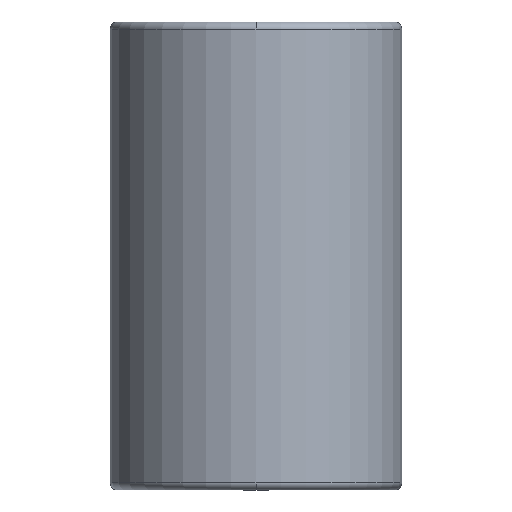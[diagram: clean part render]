
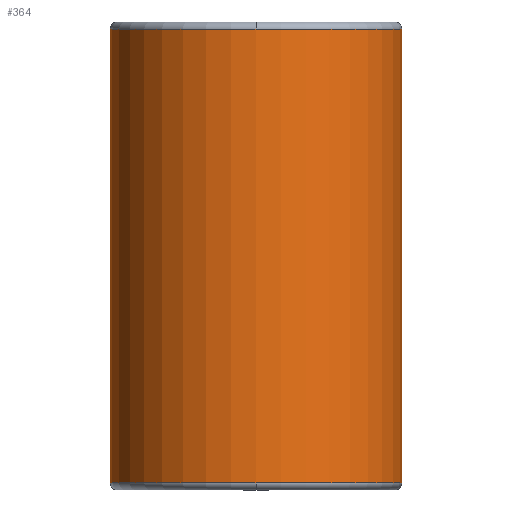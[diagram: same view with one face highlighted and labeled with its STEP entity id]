
A CAD part, front view. The second image highlights one B-rep face of the part: STEP entity #364.
In plain terms, the highlighted cylindrical face has radius 40.492 mm (diameter 80.984 mm), a partial arc.
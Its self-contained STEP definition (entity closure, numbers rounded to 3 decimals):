
#269=CARTESIAN_POINT('',(0.0,-40.492,128.0));
#270=VERTEX_POINT('',#269);
#296=CARTESIAN_POINT('',(-40.492,0.,128.0));
#297=VERTEX_POINT('',#296);
#305=CARTESIAN_POINT('',(0.0,0.,128.0));
#306=DIRECTION('',(0.0,0.0,1.0));
#307=DIRECTION('',(1.0,0.0,0.0));
#308=AXIS2_PLACEMENT_3D('',#305,#306,#307);
#309=CIRCLE('',#308,40.492);
#310=EDGE_CURVE('',#297,#270,#309,.T.);
#315=CARTESIAN_POINT('',(0.0,0.,65.0));
#316=DIRECTION('',(0.0,0.,1.0));
#317=DIRECTION('',(1.0,0.0,0.0));
#318=AXIS2_PLACEMENT_3D('',#315,#316,#317);
#319=CYLINDRICAL_SURFACE('',#318,40.492);
#320=CARTESIAN_POINT('',(40.492,0.,128.0));
#321=VERTEX_POINT('',#320);
#322=CARTESIAN_POINT('',(40.492,0.,2.));
#323=VERTEX_POINT('',#322);
#324=CARTESIAN_POINT('',(40.492,0.,128.0));
#325=DIRECTION('',(0.0,0.0,-1.0));
#326=VECTOR('',#325,126.0);
#327=LINE('',#324,#326);
#328=EDGE_CURVE('',#321,#323,#327,.T.);
#329=ORIENTED_EDGE('',*,*,#328,.F.);
#330=CARTESIAN_POINT('',(0.0,0.,128.0));
#331=DIRECTION('',(0.0,0.0,1.0));
#332=DIRECTION('',(1.0,0.0,0.0));
#333=AXIS2_PLACEMENT_3D('',#330,#331,#332);
#334=CIRCLE('',#333,40.492);
#335=EDGE_CURVE('',#270,#321,#334,.T.);
#336=ORIENTED_EDGE('',*,*,#335,.F.);
#337=ORIENTED_EDGE('',*,*,#310,.F.);
#338=CARTESIAN_POINT('',(-40.492,0.,2.));
#339=VERTEX_POINT('',#338);
#340=CARTESIAN_POINT('',(-40.492,0.,128.0));
#341=DIRECTION('',(0.0,0.0,-1.0));
#342=VECTOR('',#341,126.0);
#343=LINE('',#340,#342);
#344=EDGE_CURVE('',#297,#339,#343,.T.);
#345=ORIENTED_EDGE('',*,*,#344,.T.);
#346=CARTESIAN_POINT('',(0.0,-40.492,2.));
#347=VERTEX_POINT('',#346);
#348=CARTESIAN_POINT('',(0.0,0.,2.0));
#349=DIRECTION('',(0.0,0.0,1.0));
#350=DIRECTION('',(1.0,0.0,0.0));
#351=AXIS2_PLACEMENT_3D('',#348,#349,#350);
#352=CIRCLE('',#351,40.492);
#353=EDGE_CURVE('',#339,#347,#352,.T.);
#354=ORIENTED_EDGE('',*,*,#353,.T.);
#355=CARTESIAN_POINT('',(0.0,0.,2.0));
#356=DIRECTION('',(0.0,0.0,1.0));
#357=DIRECTION('',(1.0,0.0,0.0));
#358=AXIS2_PLACEMENT_3D('',#355,#356,#357);
#359=CIRCLE('',#358,40.492);
#360=EDGE_CURVE('',#347,#323,#359,.T.);
#361=ORIENTED_EDGE('',*,*,#360,.T.);
#362=EDGE_LOOP('',(#329,#336,#337,#345,#354,#361));
#363=FACE_OUTER_BOUND('',#362,.T.);
#364=ADVANCED_FACE('',(#363),#319,.T.);
